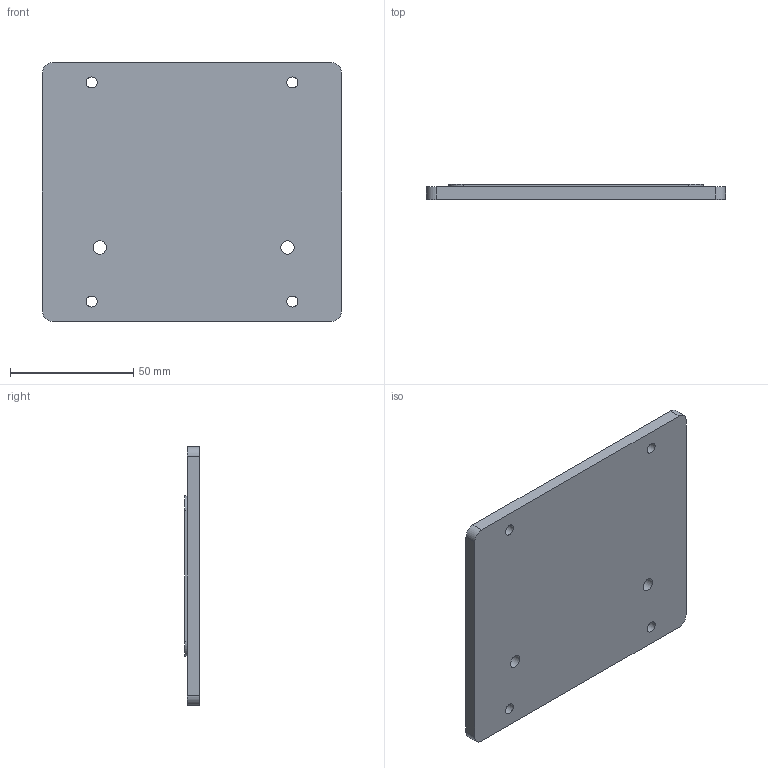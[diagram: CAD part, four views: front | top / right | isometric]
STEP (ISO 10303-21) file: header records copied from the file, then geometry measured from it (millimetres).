
FILE_DESCRIPTION(/* description */ (''),/* implementation_level */ '2;1');
FILE_NAME(/* name */ 'C:\Users\strothej\Documents\ActualDocuments\MicroscopeParts\TwoPhotonSystem\ScanningMechanics\v27\Drawings\Filter_Holder_Face.stp',/* time_stamp */ '2017-06-02T10:43:48-07:00',/* author */ ('strothej'),/* organization */ (''),/* preprocessor_version */ 'ST-DEVELOPER v16.1',/* originating_system */ 'Autodesk Inventor 2016',/* authorisation */ '');
FILE_SCHEMA (('AUTOMOTIVE_DESIGN { 1 0 10303 214 3 1 1 }'));
Length unit declared in the file: millimetre
Products named in the file (1): Filter_Holder_Face
Bounding box: 121.5 x 6 x 105 mm (x, y, z)
Volume: 61269.7 mm3; surface area: 28957.4 mm2
Topology: 1 solids, 1 shells, 50 faces, 132 edges, 88 vertices
Faces by surface type: cylinder 26, plane 18, cone 6
Full cylindrical faces by diameter (mm): 1.567 x6, 4.5 x4, 5.5 x2, 38.5 x2
Entity records: 1408 total; most frequent: DIRECTION 254, CARTESIAN_POINT 227, ORIENTED_EDGE 200, AXIS2_PLACEMENT_3D 103, EDGE_CURVE 100, EDGE_LOOP 86, VERTEX_POINT 76, CIRCLE 52
